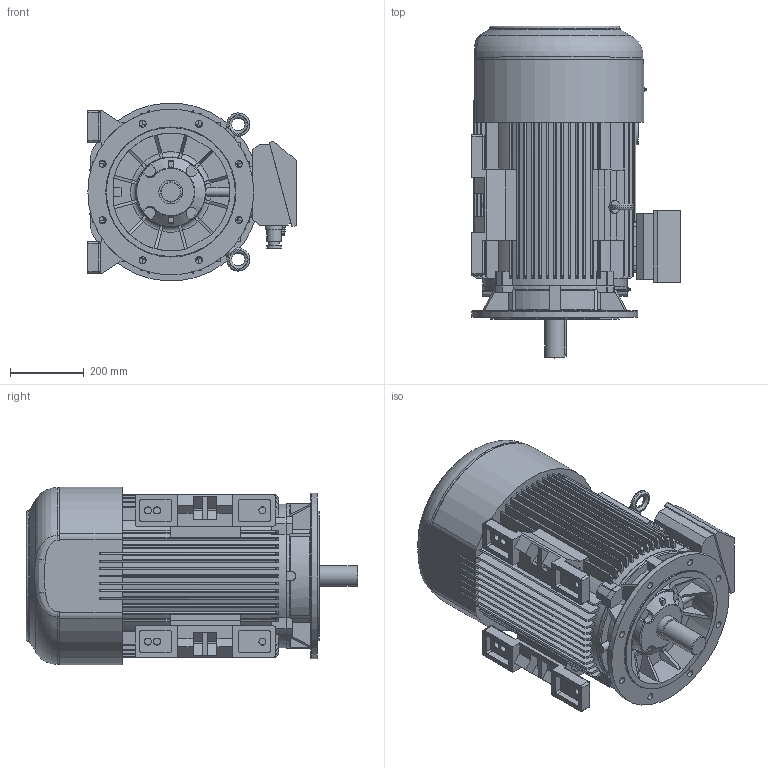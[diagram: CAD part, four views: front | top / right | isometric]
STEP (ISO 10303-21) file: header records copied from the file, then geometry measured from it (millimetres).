
FILE_DESCRIPTION( ( 'Unknown' ), '1' );
FILE_NAME( 'P:/3D_Bry³y silników skatalogowane/SIE/2SIE225/2SIE225_STEP/2SIEL 225_M2 silnik.stp', 'Unknown', ( 'Unknown' ), ( 'Unknown' ), 'XStep 1.0', 'Unknown', ' ' );
FILE_SCHEMA( ( 'CONFIG_CONTROL_DESIGN' ) );
Length unit declared in the file: millimetre
Products named in the file (1): 1
Bounding box: 565.05 x 900 x 482.33 mm (x, y, z)
Volume: 117062202 mm3; surface area: 3252878.5 mm2
Topology: 1 solids, 5 shells, 969 faces, 2670 edges, 1733 vertices
Faces by surface type: plane 622, cylinder 263, torus 50, cone 16, sphere 10, bspline 8
Full cylindrical faces by diameter (mm): 1.6 x2, 5 x4, 10 x3, 12.891 x1, 19 x14, 20 x1, 22.969 x1, 26.249 x1, 27 x1, 30 x4, 35 x4, 40 x4, 47 x2, 55 x1, 64.5 x1, 188 x1, 190 x1, 349.991 x1, 449.991 x1
Entity records: 34156 total; most frequent: CARTESIAN_POINT 9559, ORIENTED_EDGE 5124, DIRECTION 5080, EDGE_CURVE 2562, AXIS2_PLACEMENT_3D 1737, VERTEX_POINT 1712, LINE 1606, VECTOR 1606
